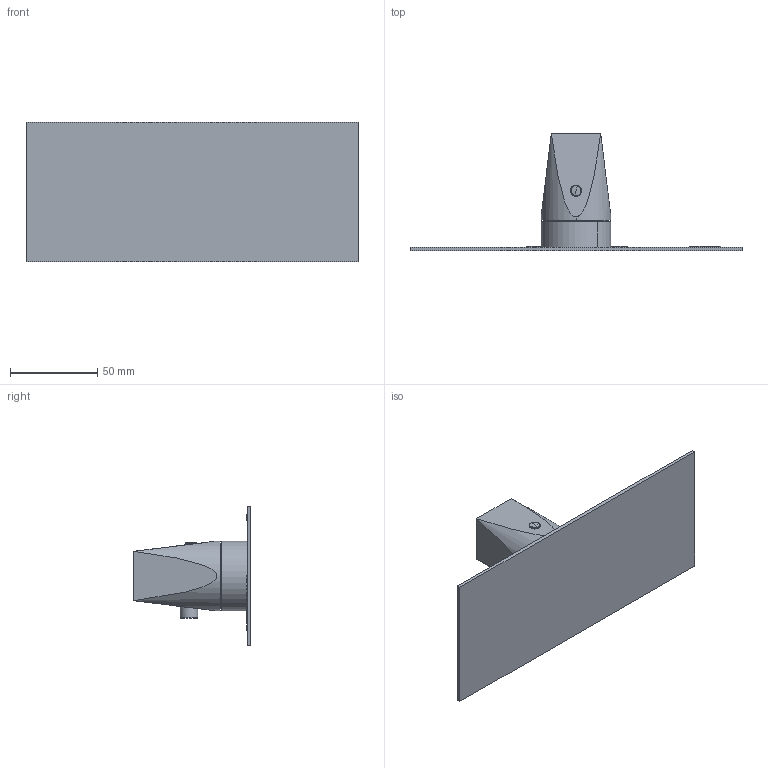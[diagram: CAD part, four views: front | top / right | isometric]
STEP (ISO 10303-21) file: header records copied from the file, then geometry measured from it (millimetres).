
FILE_DESCRIPTION((''),'2;1');
FILE_NAME('4960021_SW0001','2023-09-20T16:56:58',('carloff'),(''),'CREO PARAMETRIC BY PTC INC, 2022014','CREO PARAMETRIC BY PTC INC, 2022014','');
FILE_SCHEMA(('CONFIG_CONTROL_DESIGN'));
Length unit declared in the file: millimetre
Products named in the file (1): 4960021_SW0001
Bounding box: 190 x 67.4 x 80 mm (x, y, z)
Volume: 103999.4 mm3; surface area: 39772.3 mm2
Topology: 1 solids, 1 shells, 527 faces, 1386 edges, 921 vertices
Faces by surface type: plane 338, extrusion 166, cylinder 12, torus 6, cone 3, sphere 2
Entity records: 17025 total; most frequent: CARTESIAN_POINT 4614, ORIENTED_EDGE 2768, DIRECTION 1949, EDGE_CURVE 1384, VECTOR 1157, LINE 991, VERTEX_POINT 921, EDGE_LOOP 593
